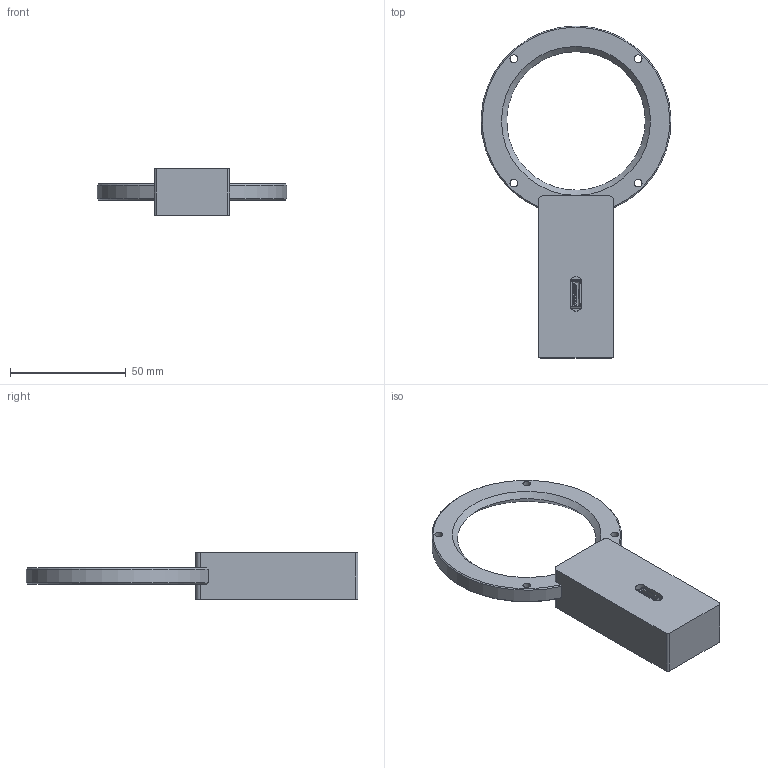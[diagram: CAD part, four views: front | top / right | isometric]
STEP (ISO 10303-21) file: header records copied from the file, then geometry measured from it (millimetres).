
FILE_DESCRIPTION (( 'STEP AP214' ), '1' );
FILE_NAME ('LRHA-76-WH.STEP', '2026-02-04T07:17:11', ( '' ), ( '' ), 'SwSTEP 2.0', 'SolidWorks 2022', '' );
FILE_SCHEMA (( 'AUTOMOTIVE_DESIGN' ));
Length unit declared in the file: millimetre
Products named in the file (1): LRHA-76-WH
Bounding box: 81.96 x 143.34 x 20 mm (x, y, z)
Volume: 57848.7 mm3; surface area: 15368.5 mm2
Topology: 1 solids, 1 shells, 153 faces, 397 edges, 261 vertices
Faces by surface type: plane 136, cylinder 13, cone 4
Full cylindrical faces by diameter (mm): 3.3 x4
Entity records: 6005 total; most frequent: CARTESIAN_POINT 831, ORIENTED_EDGE 780, DIRECTION 724, EDGE_CURVE 390, VECTOR 354, LINE 354, VERTEX_POINT 260, EDGE_LOOP 186
